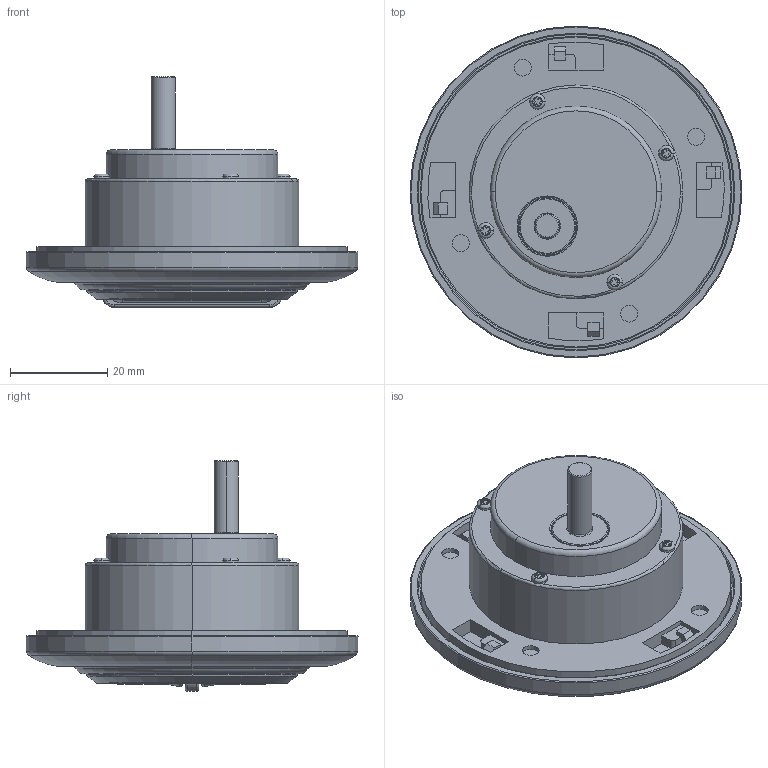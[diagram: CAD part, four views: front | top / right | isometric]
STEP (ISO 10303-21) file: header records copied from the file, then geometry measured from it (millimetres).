
FILE_DESCRIPTION (( 'STEP AP203' ), '1' );
FILE_NAME ('3D-TH5-A.STEP', '2010-03-17T03:01:47', ( 'Jeremy' ), ( 'Microsoft' ), 'SwSTEP 2.0', 'SolidWorks 2005179', '' );
FILE_SCHEMA (( 'CONFIG_CONTROL_DESIGN' ));
Length unit declared in the file: millimetre
Products named in the file (1): 3D-TH5-A
Bounding box: 68.32 x 68.32 x 47.4 mm (x, y, z)
Volume: 56492.6 mm3; surface area: 14770.5 mm2
Topology: 1 solids, 1 shells, 320 faces, 769 edges, 468 vertices
Faces by surface type: plane 153, cylinder 95, torus 48, bspline 16, cone 8
Entity records: 13922 total; most frequent: CARTESIAN_POINT 6560, ORIENTED_EDGE 1538, DIRECTION 1503, EDGE_CURVE 769, AXIS2_PLACEMENT_3D 539, VERTEX_POINT 468, VECTOR 425, LINE 425
